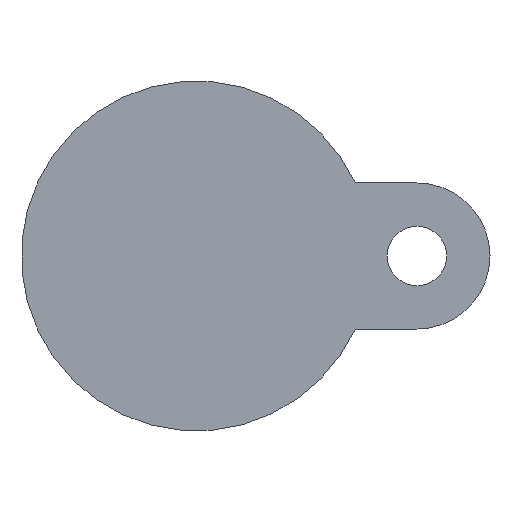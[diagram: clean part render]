
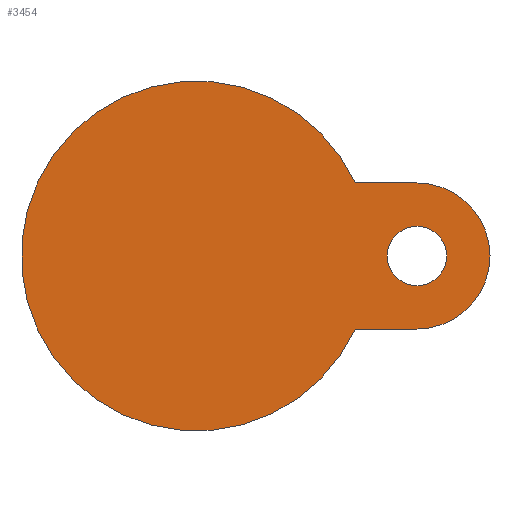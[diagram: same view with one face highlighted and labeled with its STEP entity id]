
A CAD part, front view. The second image highlights one B-rep face of the part: STEP entity #3454.
In plain terms, the highlighted planar face has unit normal (0, -1, 0).
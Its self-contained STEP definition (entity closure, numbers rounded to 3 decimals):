
#25 = DIRECTION ( 'NONE',  ( 0., -1., 0. ) ) ;
#53 = DIRECTION ( 'NONE',  ( 0., 1., 0. ) ) ;
#70 = AXIS2_PLACEMENT_3D ( 'NONE', #1694, #1672, #1329 ) ;
#91 = ORIENTED_EDGE ( 'NONE', *, *, #1680, .F. ) ;
#195 = LINE ( 'NONE', #1575, #1317 ) ;
#212 = EDGE_LOOP ( 'NONE', ( #2060, #91, #544, #2460 ) ) ;
#233 = PLANE ( 'NONE',  #2663 ) ;
#265 = CARTESIAN_POINT ( 'NONE',  ( 56.25, -28., 0. ) ) ;
#544 = ORIENTED_EDGE ( 'NONE', *, *, #3051, .F. ) ;
#553 = DIRECTION ( 'NONE',  ( 0., -1., 0. ) ) ;
#586 = VECTOR ( 'NONE', #2374, 1000. ) ;
#857 = AXIS2_PLACEMENT_3D ( 'NONE', #4100, #2395, #4341 ) ;
#878 = VERTEX_POINT ( 'NONE', #2655 ) ;
#985 = CARTESIAN_POINT ( 'NONE',  ( 36.5, -28., 21.5 ) ) ;
#997 = AXIS2_PLACEMENT_3D ( 'NONE', #3564, #53, #1860 ) ;
#1071 = CIRCLE ( 'NONE', #857, 21.5 ) ;
#1158 = VERTEX_POINT ( 'NONE', #2185 ) ;
#1249 = FACE_OUTER_BOUND ( 'NONE', #212, .T. ) ;
#1302 = AXIS2_PLACEMENT_3D ( 'NONE', #4324, #553, #1980 ) ;
#1317 = VECTOR ( 'NONE', #2952, 1000. ) ;
#1329 = DIRECTION ( 'NONE',  ( -1., 0., 0. ) ) ;
#1378 = DIRECTION ( 'NONE',  ( 1., 0., 0. ) ) ;
#1409 = EDGE_CURVE ( 'NONE', #878, #1158, #4079, .T. ) ;
#1572 = EDGE_CURVE ( 'NONE', #878, #3223, #3246, .T. ) ;
#1575 = CARTESIAN_POINT ( 'NONE',  ( 36.5, -28., -21.5 ) ) ;
#1593 = ORIENTED_EDGE ( 'NONE', *, *, #1896, .T. ) ;
#1609 = ORIENTED_EDGE ( 'NONE', *, *, #4070, .T. ) ;
#1670 = CARTESIAN_POINT ( 'NONE',  ( 65., -28., -21.5 ) ) ;
#1672 = DIRECTION ( 'NONE',  ( 0., 1., 0. ) ) ;
#1680 = EDGE_CURVE ( 'NONE', #2988, #3223, #195, .T. ) ;
#1694 = CARTESIAN_POINT ( 'NONE',  ( 65., -28., 0. ) ) ;
#1744 = CARTESIAN_POINT ( 'NONE',  ( 51.5, -28., 0. ) ) ;
#1860 = DIRECTION ( 'NONE',  ( -1., 0., 0. ) ) ;
#1896 = EDGE_CURVE ( 'NONE', #2985, #4011, #2948, .T. ) ;
#1929 = FACE_BOUND ( 'NONE', #3072, .T. ) ;
#1980 = DIRECTION ( 'NONE',  ( 1., 0., 0. ) ) ;
#2020 = CIRCLE ( 'NONE', #70, 8.75 ) ;
#2060 = ORIENTED_EDGE ( 'NONE', *, *, #1572, .T. ) ;
#2185 = CARTESIAN_POINT ( 'NONE',  ( 65., -28., 21.5 ) ) ;
#2350 = CARTESIAN_POINT ( 'NONE',  ( 73.75, -28., 0. ) ) ;
#2374 = DIRECTION ( 'NONE',  ( 1., 0., 0. ) ) ;
#2395 = DIRECTION ( 'NONE',  ( 0., 1., 0. ) ) ;
#2460 = ORIENTED_EDGE ( 'NONE', *, *, #1409, .F. ) ;
#2655 = CARTESIAN_POINT ( 'NONE',  ( 46.797, -28., 21.5 ) ) ;
#2663 = AXIS2_PLACEMENT_3D ( 'NONE', #1744, #25, #1378 ) ;
#2948 = CIRCLE ( 'NONE', #997, 8.75 ) ;
#2952 = DIRECTION ( 'NONE',  ( -1., 0., 0. ) ) ;
#2985 = VERTEX_POINT ( 'NONE', #2350 ) ;
#2988 = VERTEX_POINT ( 'NONE', #1670 ) ;
#3039 = CARTESIAN_POINT ( 'NONE',  ( 46.797, -28., -21.5 ) ) ;
#3051 = EDGE_CURVE ( 'NONE', #1158, #2988, #1071, .T. ) ;
#3072 = EDGE_LOOP ( 'NONE', ( #1609, #1593 ) ) ;
#3223 = VERTEX_POINT ( 'NONE', #3039 ) ;
#3246 = CIRCLE ( 'NONE', #1302, 51.5 ) ;
#3454 = ADVANCED_FACE ( 'NONE', ( #1929, #1249 ), #233, .T. ) ;
#3564 = CARTESIAN_POINT ( 'NONE',  ( 65., -28., 0. ) ) ;
#4011 = VERTEX_POINT ( 'NONE', #265 ) ;
#4070 = EDGE_CURVE ( 'NONE', #4011, #2985, #2020, .T. ) ;
#4079 = LINE ( 'NONE', #985, #586 ) ;
#4100 = CARTESIAN_POINT ( 'NONE',  ( 65., -28., 0. ) ) ;
#4324 = CARTESIAN_POINT ( 'NONE',  ( 0., -28., 0. ) ) ;
#4341 = DIRECTION ( 'NONE',  ( 1., 0., 0. ) ) ;
